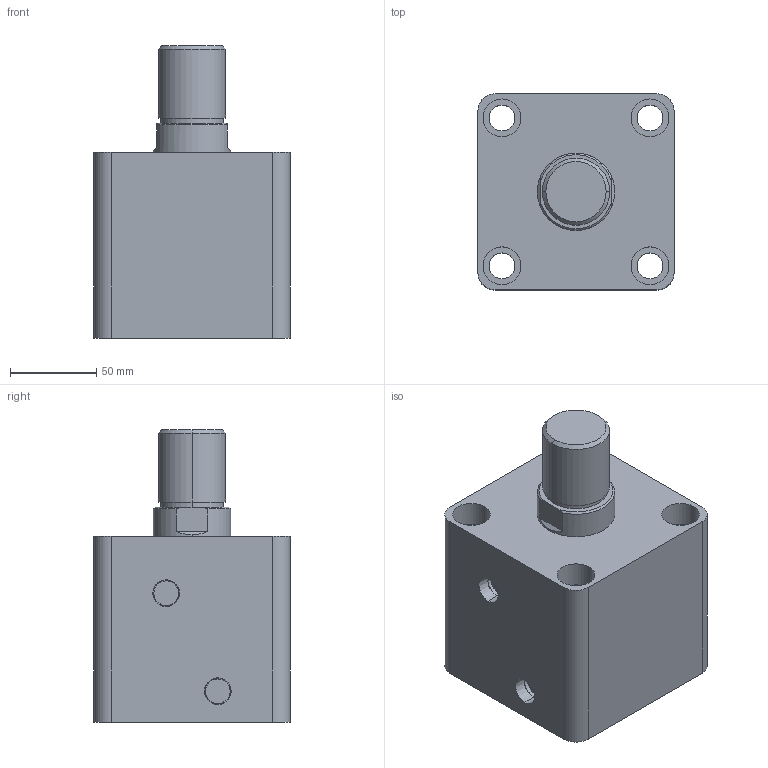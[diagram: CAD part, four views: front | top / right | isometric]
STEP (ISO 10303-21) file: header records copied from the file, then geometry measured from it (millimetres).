
FILE_DESCRIPTION (( 'STEP AP203' ), '1' );
FILE_NAME ('HTB-SD80-30W.STEP', '2019-10-07T08:18:21', ( '微软用户' ), ( '微软中国' ), 'SwSTEP 2.0', 'SolidWorks 2012', '' );
FILE_SCHEMA (( 'CONFIG_CONTROL_DESIGN' ));
Length unit declared in the file: millimetre
Products named in the file (3): HTB-SD80-30W; HTB-SD80-30W活塞杆; HTB-SD80-30掛极
Assembly tree (2 placements, depth 2):
  HTB-SD80-30W
    HTB-SD80-30掛极
    HTB-SD80-30W活塞杆
Bounding box: 114 x 114 x 170 mm (x, y, z)
Volume: 1266012.8 mm3; surface area: 156781.2 mm2
Topology: 2 solids, 2 shells, 87 faces, 190 edges, 124 vertices
Faces by surface type: cylinder 44, plane 29, cone 8, torus 6
Entity records: 2761 total; most frequent: DIRECTION 478, CARTESIAN_POINT 434, ORIENTED_EDGE 380, AXIS2_PLACEMENT_3D 204, EDGE_CURVE 190, VERTEX_POINT 124, EDGE_LOOP 112, CIRCLE 112
